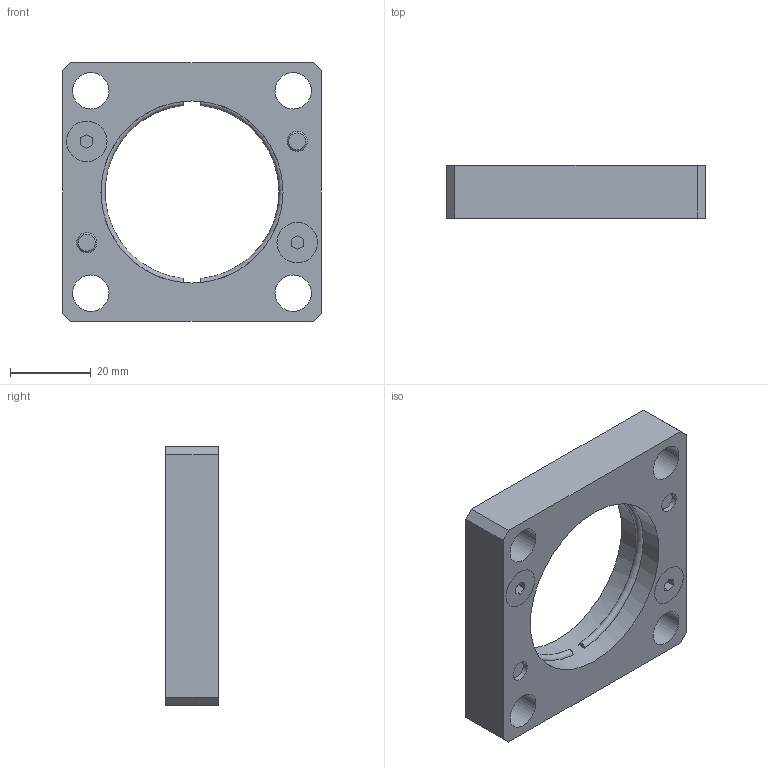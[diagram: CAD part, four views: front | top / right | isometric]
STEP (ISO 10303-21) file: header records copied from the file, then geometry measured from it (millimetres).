
FILE_DESCRIPTION(/* description */ (''),/* implementation_level */ '2;1');
FILE_NAME(/* name */ 'C:\Users\Jefferson\Desktop\Biblioteca Pro Nitro 2024 - Inventor\Flanges\PNB-65-XXX\PNB-65-045.stp',/* time_stamp */ '2024-12-30T13:46:05-03:00',/* author */ ('Jefferson'),/* organization */ (''),/* preprocessor_version */ 'ST-DEVELOPER v19',/* originating_system */ 'Autodesk Inventor 2023',/* authorisation */ '');
FILE_SCHEMA (('AUTOMOTIVE_DESIGN { 1 0 10303 214 3 1 1 }'));
Length unit declared in the file: millimetre
Products named in the file (3): PNB-65-045; DNB-0016-045; DIN 7991 - M5x12
Assembly tree (5 placements, depth 2):
  PNB-65-045
    DNB-0016-045
    DIN 7991 - M5x12  x4
Bounding box: 64 x 13 x 64 mm (x, y, z)
Volume: 29279.1 mm3; surface area: 13241.2 mm2
Topology: 5 solids, 5 shells, 246 faces, 639 edges, 424 vertices
Faces by surface type: plane 132, bspline 79, cylinder 17, cone 12, torus 6
Full cylindrical faces by diameter (mm): 5 x8, 9 x4, 10 x4, 45 x1
Entity records: 6980 total; most frequent: CARTESIAN_POINT 2212, ORIENTED_EDGE 1086, DIRECTION 689, EDGE_CURVE 543, VERTEX_POINT 361, LINE 341, VECTOR 341, EDGE_LOOP 240
